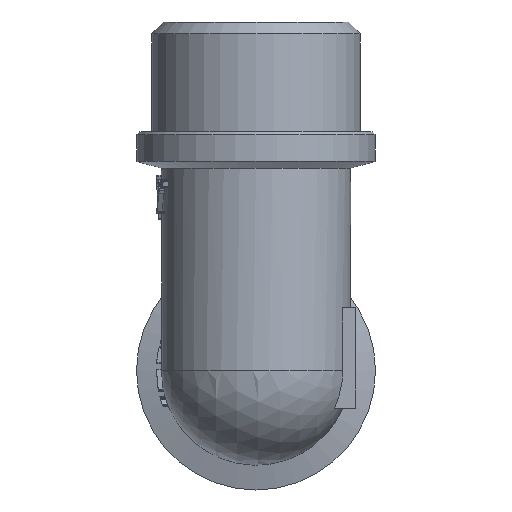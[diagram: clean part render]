
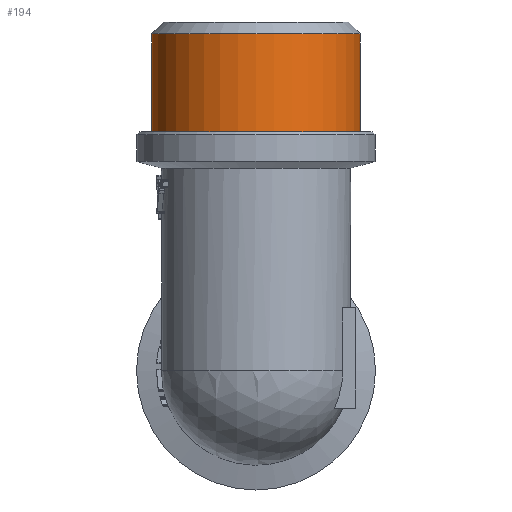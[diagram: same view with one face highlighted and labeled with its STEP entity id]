
A CAD part, front view. The second image highlights one B-rep face of the part: STEP entity #194.
In plain terms, the highlighted cylindrical face has radius 10.477 mm (diameter 20.955 mm), a full revolution.
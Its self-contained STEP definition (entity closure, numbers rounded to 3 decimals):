
#194=ADVANCED_FACE('',(#1335,#1337),#1339,.T.);
#1335=FACE_OUTER_BOUND('',#1336,.T.);
#1336=EDGE_LOOP('',(#2880));
#1337=FACE_OUTER_BOUND('',#1338,.T.);
#1338=EDGE_LOOP('',(#2881));
#1339=CYLINDRICAL_SURFACE('',#1340,10.478);
#1340=AXIS2_PLACEMENT_3D('',#1341,#1342,#1343);
#1341=CARTESIAN_POINT('',(0.,-35.,24.));
#1342=DIRECTION('',(0.,0.,1.));
#1343=DIRECTION('',(0.,1.,0.));
#2880=ORIENTED_EDGE('',*,*,#3699,.F.);
#2881=ORIENTED_EDGE('',*,*,#3697,.F.);
#3697=EDGE_CURVE('',#4585,#4585,#4586,.F.);
#3699=EDGE_CURVE('',#4589,#4589,#4590,.T.);
#4585=VERTEX_POINT('',#8247);
#4586=CIRCLE('',#8248,10.478);
#4589=VERTEX_POINT('',#8257);
#4590=CIRCLE('',#8258,10.478);
#8247=CARTESIAN_POINT('',(0.,-24.523,24.));
#8248=AXIS2_PLACEMENT_3D('',#8249,#8250,#8251);
#8249=CARTESIAN_POINT('',(0.,-35.,24.));
#8250=DIRECTION('',(0.,0.,1.));
#8251=DIRECTION('',(0.,1.,0.));
#8257=CARTESIAN_POINT('',(0.,-24.523,33.8));
#8258=AXIS2_PLACEMENT_3D('',#8259,#8260,#8261);
#8259=CARTESIAN_POINT('',(0.,-35.,33.8));
#8260=DIRECTION('',(0.,0.,1.));
#8261=DIRECTION('',(0.,1.,0.));
